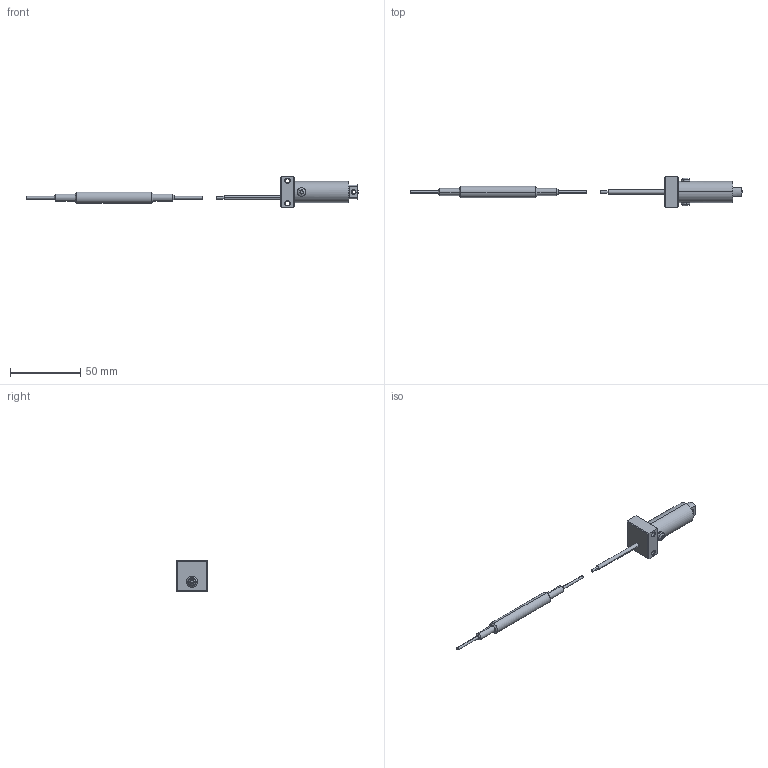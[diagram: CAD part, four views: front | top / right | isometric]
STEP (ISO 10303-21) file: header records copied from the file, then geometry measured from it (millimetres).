
FILE_DESCRIPTION(('STEP AP203'),'1');
FILE_NAME('C:/TPO v2/SharedFS/Outgoing/burster_8510-5005-v010_6a5ktnoe36gx5xren5tcsrnr1.stp','2013-08-27T14:59:15',('TraceParts'),('TraceParts S.A.'),'XStep 1.0',' ',' ');
FILE_SCHEMA(('CONFIG_CONTROL_DESIGN'));
Length unit declared in the file: millimetre
Products named in the file (2): 1; 2
Bounding box: 235.51 x 22 x 22 mm (x, y, z)
Volume: 15434.2 mm3; surface area: 6882.3 mm2
Topology: 2 solids, 2 shells, 118 faces, 273 edges, 172 vertices
Faces by surface type: cylinder 48, plane 44, cone 24, sphere 2
Entity records: 3653 total; most frequent: CARTESIAN_POINT 815, DIRECTION 603, ORIENTED_EDGE 546, EDGE_CURVE 273, AXIS2_PLACEMENT_3D 234, VERTEX_POINT 172, EDGE_LOOP 137, LINE 135
